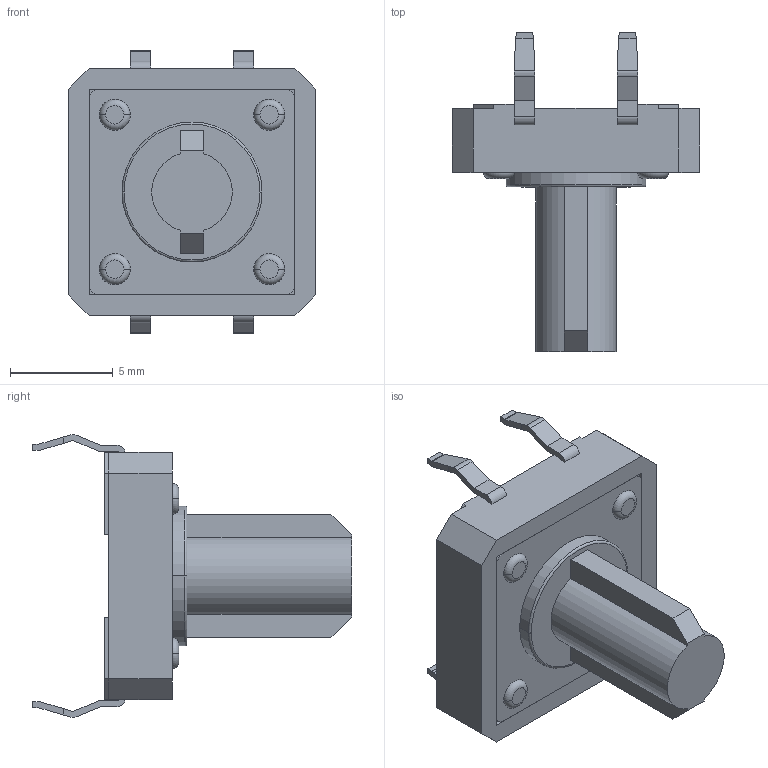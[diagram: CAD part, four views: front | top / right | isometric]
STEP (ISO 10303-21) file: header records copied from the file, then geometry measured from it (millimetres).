
FILE_DESCRIPTION((''),'2;1');
FILE_NAME('JQB1212N-C1201-101_ASM','2026-05-25T18:05:37',('Admin'),(''),'CREO PARAMETRIC BY PTC INC, 2019224','CREO PARAMETRIC BY PTC INC, 2019224','');
FILE_SCHEMA(('AUTOMOTIVE_DESIGN { 1 0 10303 214 1 1 1 1 }'));
Length unit declared in the file: millimetre
Products named in the file (4): JQB1212N-C1201-101_01; JQB1212N-C1201-101_02; JQB1212N-C1201-101_03; JQB1212N-C1201-101_ASM
Assembly tree (3 placements, depth 2):
  JQB1212N-C1201-101_ASM
    JQB1212N-C1201-101_01
    JQB1212N-C1201-101_02
    JQB1212N-C1201-101_03
Bounding box: 12 x 15.5 x 13.75 mm (x, y, z)
Volume: 592.9 mm3; surface area: 914.7 mm2
Topology: 3 solids, 3 shells, 172 faces, 495 edges, 358 vertices
Faces by surface type: plane 116, cylinder 46, torus 10
Entity records: 7863 total; most frequent: CARTESIAN_POINT 1025, DIRECTION 977, ORIENTED_EDGE 908, PRESENTATION_STYLE_ASSIGNMENT 518, EDGE_CURVE 454, STYLED_ITEM 448, CURVE_STYLE 446, VECTOR 355
